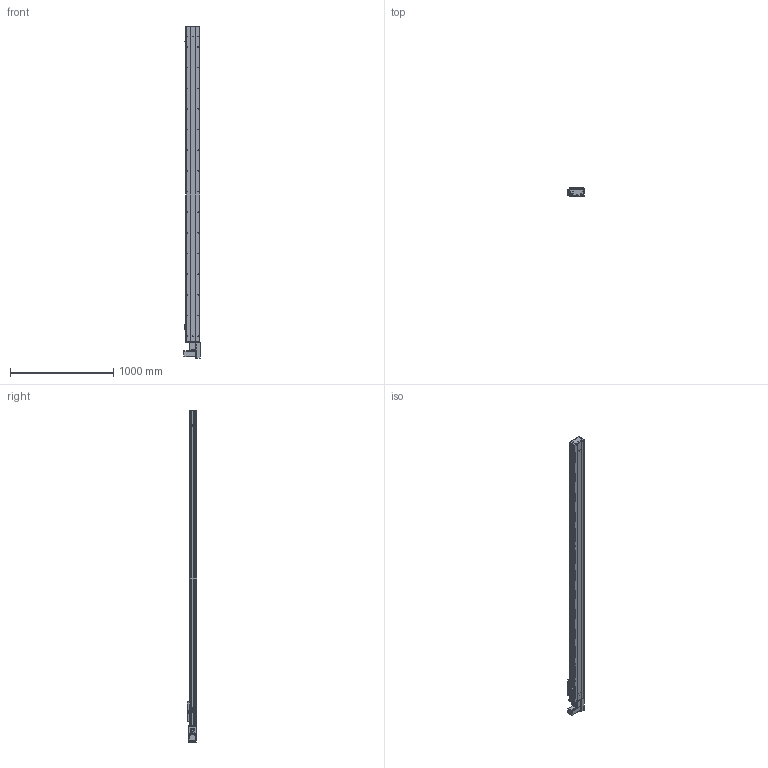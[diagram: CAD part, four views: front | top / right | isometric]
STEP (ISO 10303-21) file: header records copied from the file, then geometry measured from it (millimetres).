
FILE_DESCRIPTION (( 'STEP AP203' ), '1' );
FILE_NAME ('Y135CB-D90-S2750-BL-P400W.STEP', '2020-02-18T01:47:51', ( '微软用户' ), ( '微软中国' ), 'SwSTEP 2.0', 'SolidWorks 2017', '' );
FILE_SCHEMA (( 'CONFIG_CONTROL_DESIGN' ));
Length unit declared in the file: millimetre
Products named in the file (18): san松下电机400不带刹车----; 5CB --掛极耜裔啣-; 35CB---喘謫眊楊擘啣; C-詩湍揤踡え-陔; Y10B--々湍喘謫眊--666; 135CB--詩湍-CE; Y10B-耜蚾蟀諉啣----; Y100-135俋离換覜ん--; Y俋欶BR----; Y135C-陔俋离換覜結え-; 0B-埴倛裔啣; Y135CB-D90-S2750-BL-P400W; Y135CB-耜裔; 5C--俋欶; 0B-源倛裔啣; 135CB---遴掛极.-; C-雄赽釱--; 0B-萇儂楊擘啣
Assembly tree (21 placements, depth 2):
  Y135CB-D90-S2750-BL-P400W
    Y135CB-耜裔
    135CB---遴掛极.-
    35CB---喘謫眊楊擘啣
    Y10B--々湍喘謫眊--666
    Y10B-耜蚾蟀諉啣----
    Y俋欶BR----
    0B-埴倛裔啣
    0B-源倛裔啣
    0B-萇儂楊擘啣
    san松下电机400不带刹车----
    5CB --掛极耜裔啣-  x2
    C-詩湍揤踡え-陔  x2
    135CB--詩湍-CE
    Y100-135俋离換覜ん--  x3
    Y135C-陔俋离換覜結え-
    5C--俋欶
    C-雄赽釱--
Bounding box: 157.5 x 91 x 3214.5 mm (x, y, z)
Volume: 8931840.1 mm3; surface area: 3541765.3 mm2
Topology: 21 solids, 21 shells, 981 faces, 2689 edges, 1782 vertices
Faces by surface type: cylinder 507, plane 458, cone 16
Entity records: 31159 total; most frequent: CARTESIAN_POINT 5208, DIRECTION 5177, ORIENTED_EDGE 4854, EDGE_CURVE 2427, AXIS2_PLACEMENT_3D 1899, VERTEX_POINT 1610, LINE 1379, VECTOR 1379
